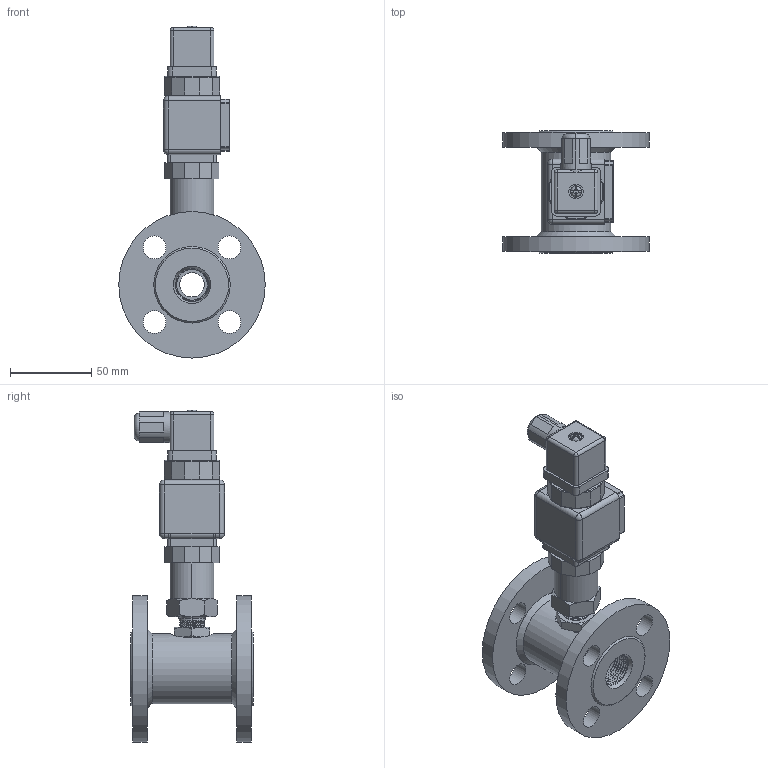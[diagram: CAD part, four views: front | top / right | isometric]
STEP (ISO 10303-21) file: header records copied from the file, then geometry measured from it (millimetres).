
FILE_DESCRIPTION( (''), '2;1');
FILE_NAME( 'QTKB_DN15_flange_DIN-plug_display.step', '2025-04-16T15:51:26+08:00', (''), (''), '', '', '');
FILE_SCHEMA (('AUTOMOTIVE_DESIGN { 1 0 10303 214 3 1 1 1 }'));
Length unit declared in the file: millimetre
Products named in the file (1): QTKB DN15_flange_DIN-plug_display
Bounding box: 90 x 75 x 204 mm (x, y, z)
Volume: 295174.6 mm3; surface area: 68667.6 mm2
Topology: 5 solids, 6 shells, 555 faces, 1439 edges, 932 vertices
Faces by surface type: plane 218, cylinder 149, extrusion 108, cone 44, bspline 24, sphere 8, torus 4
Full cylindrical faces by diameter (mm): 14 x8, 15 x1, 17 x1, 21 x2, 25 x1, 43 x1, 90 x2
Entity records: 24132 total; most frequent: CARTESIAN_POINT 11205, ORIENTED_EDGE 2788, DIRECTION 2311, EDGE_CURVE 1394, VERTEX_POINT 919, VECTOR 773, AXIS2_PLACEMENT_3D 769, LINE 665
